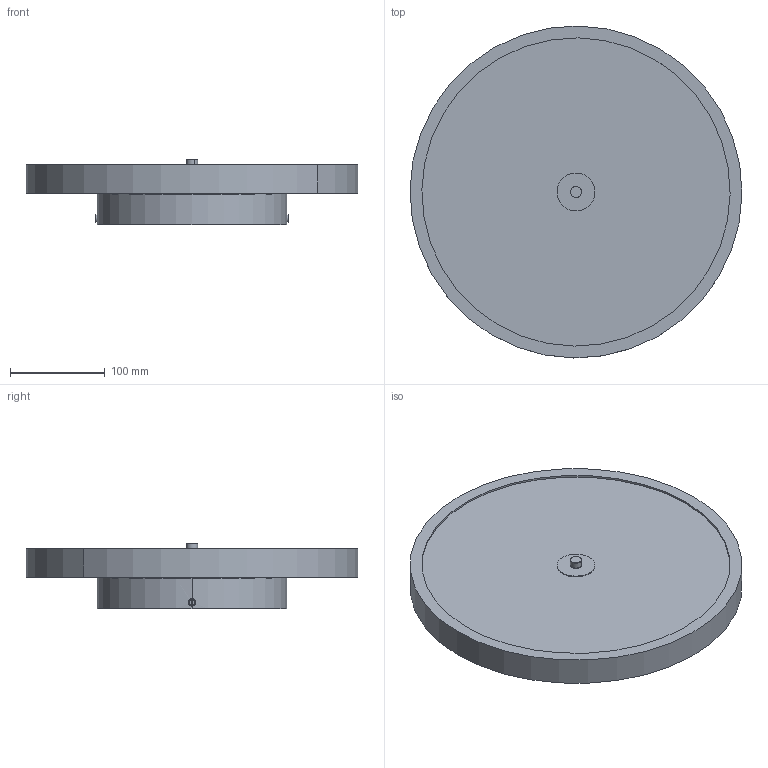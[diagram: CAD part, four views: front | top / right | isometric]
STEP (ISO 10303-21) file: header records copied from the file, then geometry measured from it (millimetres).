
FILE_DESCRIPTION (( 'STEP AP203' ), '1' );
FILE_NAME ('Spin aplic_Ø35cm_forma.STEP', '2025-07-08T07:55:49', ( '' ), ( '' ), 'SwSTEP 2.0', 'SolidWorks 2013', '' );
FILE_SCHEMA (( 'CONFIG_CONTROL_DESIGN' ));
Length unit declared in the file: millimetre
Products named in the file (10): GI444_Tapa Ø345 fixació LED; PP050_Difusor amb lli Ø330; GI451_Arandela Ø50 pas 10; FU036_Anell Spin Ø350x31mm; GI111_Finalet Ø12x7_M10x1; AR109_Floró ø200x35 3T 2xM4 sistema USA; AG019_M4x8; Spin aplic_Ø35cm_forma; GI228_SUP. FIXACIÓ FLORÓ USA Ø200; PP049_Difusor amb lli Ø324
Assembly tree (10 placements, depth 2):
  Spin aplic_Ø35cm_forma
    AR109_Floró ø200x35 3T 2xM4 sistema USA
    PP049_Difusor amb lli Ø324
    GI444_Tapa Ø345 fixació LED
    FU036_Anell Spin Ø350x31mm
    PP050_Difusor amb lli Ø330
    GI451_Arandela Ø50 pas 10
    GI228_SUP. FIXACIÓ FLORÓ USA Ø200
    GI111_Finalet Ø12x7_M10x1
    AG019_M4x8  x2
Bounding box: 349.97 x 349.97 x 69.5 mm (x, y, z)
Volume: 925846 mm3; surface area: 695071.2 mm2
Topology: 10 solids, 10 shells, 165 faces, 374 edges, 238 vertices
Faces by surface type: cylinder 94, plane 45, torus 18, bspline 4, cone 4
Entity records: 5852 total; most frequent: CARTESIAN_POINT 1179, DIRECTION 838, ORIENTED_EDGE 688, AXIS2_PLACEMENT_3D 363, EDGE_CURVE 344, VERTEX_POINT 220, CIRCLE 204, EDGE_LOOP 188
